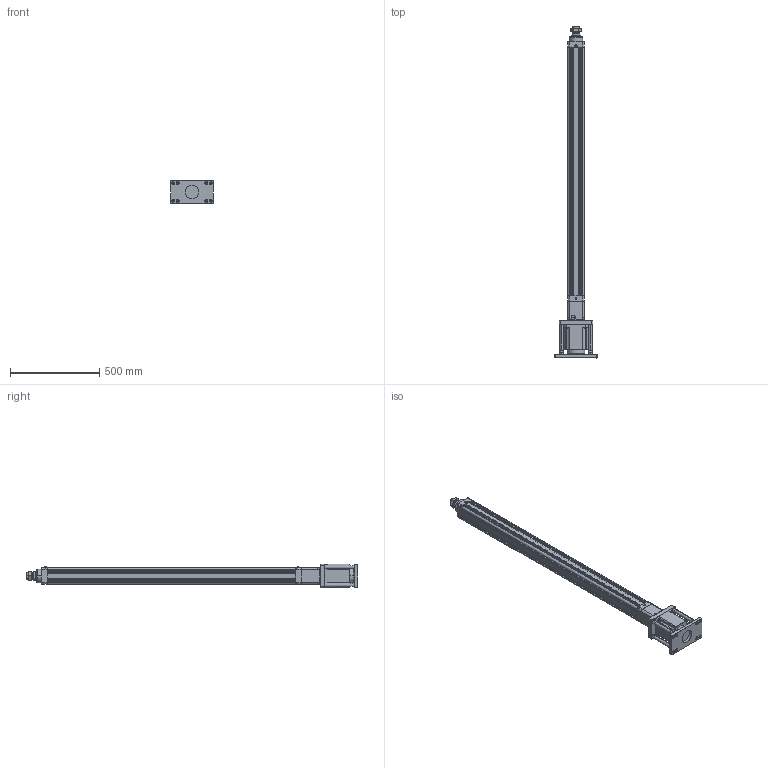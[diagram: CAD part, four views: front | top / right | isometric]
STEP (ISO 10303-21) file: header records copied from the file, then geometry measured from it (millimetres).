
FILE_DESCRIPTION((''),'2;1');
FILE_NAME('HE80-D-P_ASM','2020-04-23T',('ASUS20200'),(''),'CREO PARAMETRIC BY PTC INC, 2014190','CREO PARAMETRIC BY PTC INC, 2014190','');
FILE_SCHEMA(('CONFIG_CONTROL_DESIGN'));
Length unit declared in the file: millimetre
Products named in the file (25): HE80-D-P-001-X1; HE80-D-P-002-X1; HE80-D-P-003-X1; 30304J; YZ-M6X1; SLM-01; JDB506030; HE80-100-D-P-X1_ASM; HE80-D-009-X1; HE80-D-010-X1-130N; M10X110; SKT-20; M8X20; 130ST-M10010; JX6X6X40; TD-8; M8X40; HE80-D-P-005-X1; HE80-D-P-004-X1; HE80-D-P-008-X1; LGLM-M10-25; HE80-FB-LG; F-HE80FB; M10X30; HE80-D-P_ASM
Assembly tree (51 placements, depth 3):
  HE80-D-P_ASM
    HE80-100-D-P-X1_ASM
      HE80-D-P-001-X1
      HE80-D-P-002-X1
      HE80-D-P-003-X1
      30304J  x2
      YZ-M6X1
      SLM-01
      JDB506030
    HE80-D-009-X1
    HE80-D-010-X1-130N
    M10X110  x4
    SKT-20  x2
    M8X20  x4
    130ST-M10010
    JX6X6X40
    TD-8  x4
    M8X40  x4
    HE80-D-P-005-X1
    HE80-D-P-004-X1
    HE80-D-P-008-X1
    LGLM-M10-25  x4
    HE80-FB-LG  x4
    F-HE80FB
    M10X30  x8
Bounding box: 240 x 1857 x 130.01 mm (x, y, z)
Volume: 8199956.9 mm3; surface area: 2211191 mm2
Topology: 50 solids, 81 shells, 2059 faces, 4715 edges, 2878 vertices
Faces by surface type: plane 710, cone 598, cylinder 591, torus 126, sphere 30, bspline 4
Entity records: 42369 total; most frequent: CARTESIAN_POINT 8017, DIRECTION 7694, ORIENTED_EDGE 6504, EDGE_CURVE 3299, AXIS2_PLACEMENT_3D 3018, VERTEX_POINT 2014, EDGE_LOOP 1695, VECTOR 1658
